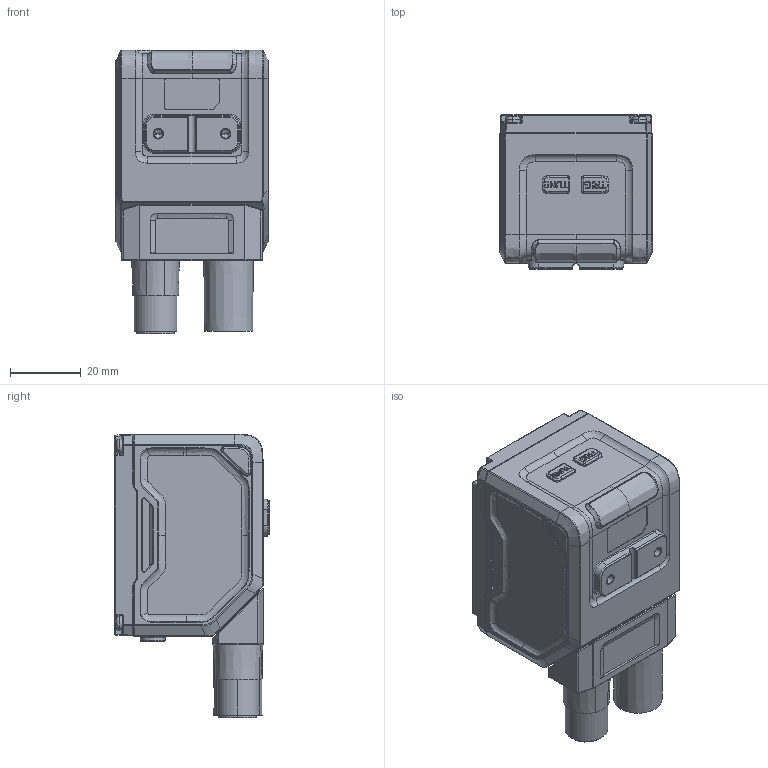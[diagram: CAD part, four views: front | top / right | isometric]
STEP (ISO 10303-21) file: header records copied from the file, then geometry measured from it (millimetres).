
FILE_DESCRIPTION((''),'2;1');
FILE_NAME('0006','2025-11-07T10:07:06',('qinyangfan'),(''),'CREO PARAMETRIC BY PTC INC, 2020044','CREO PARAMETRIC BY PTC INC, 2020044','');
FILE_SCHEMA(('CONFIG_CONTROL_DESIGN'));
Products named in the file (1): 0006
Bounding box: 43 x 43.5 x 80.11 mm (x, y, z)
Volume: 98289.4 mm3; surface area: 27358.4 mm2
Topology: 2 solids, 29 shells, 1678 faces, 4301 edges, 2718 vertices
Faces by surface type: plane 615, cylinder 565, cone 180, bspline 155, torus 88, extrusion 67, sphere 6, revolution 2
Entity records: 76735 total; most frequent: CARTESIAN_POINT 37152, ORIENTED_EDGE 8468, DIRECTION 7825, EDGE_CURVE 4264, AXIS2_PLACEMENT_3D 2839, VERTEX_POINT 2718, VECTOR 2145, LINE 2078
